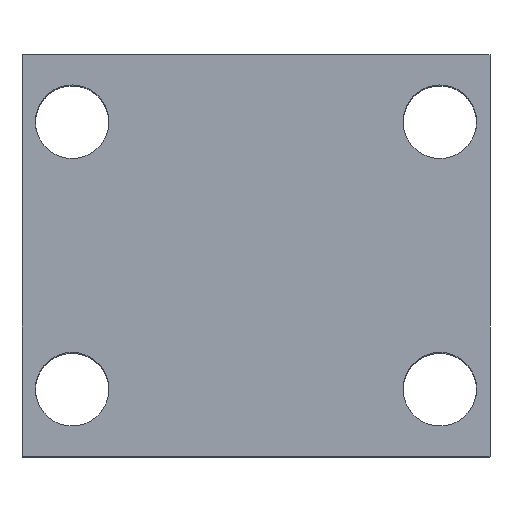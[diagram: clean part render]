
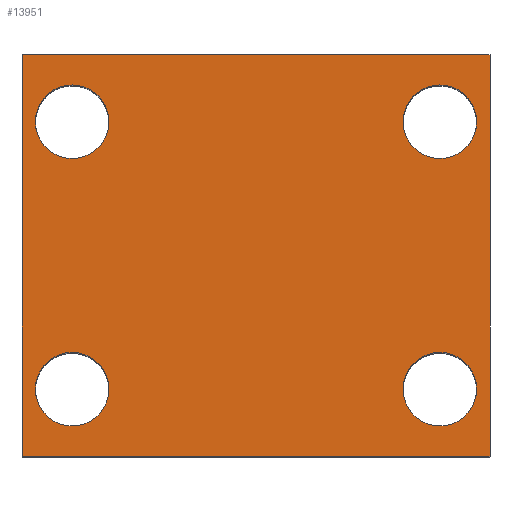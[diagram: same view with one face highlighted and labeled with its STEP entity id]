
A CAD part, top view. The second image highlights one B-rep face of the part: STEP entity #13951.
In plain terms, the highlighted planar face has unit normal (0, 0, 1).
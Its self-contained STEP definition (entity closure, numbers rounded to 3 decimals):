
#313 = ORIENTED_EDGE ( 'NONE', *, *, #8789, .T. ) ;
#527 = VERTEX_POINT ( 'NONE', #11093 ) ;
#805 = CARTESIAN_POINT ( 'NONE',  ( -44., 20., 90. ) ) ;
#972 = VERTEX_POINT ( 'NONE', #16386 ) ;
#973 = CARTESIAN_POINT ( 'NONE',  ( -70., 120., 90. ) ) ;
#1022 = VERTEX_POINT ( 'NONE', #4160 ) ;
#1179 = VERTEX_POINT ( 'NONE', #3356 ) ;
#1508 = EDGE_CURVE ( 'NONE', #14129, #972, #13587, .T. ) ;
#1691 = CARTESIAN_POINT ( 'NONE',  ( -70., 0., 90. ) ) ;
#1798 = CARTESIAN_POINT ( 'NONE',  ( 66., 20., 90. ) ) ;
#1804 = EDGE_CURVE ( 'NONE', #13952, #15826, #11424, .T. ) ;
#1813 = VECTOR ( 'NONE', #10751, 1000. ) ;
#2024 = EDGE_LOOP ( 'NONE', ( #6014, #12218 ) ) ;
#2423 = DIRECTION ( 'NONE',  ( 0., -1., 0. ) ) ;
#3356 = CARTESIAN_POINT ( 'NONE',  ( 70., 0., 90. ) ) ;
#3361 = CARTESIAN_POINT ( 'NONE',  ( -70., 120., 90. ) ) ;
#3438 = CIRCLE ( 'NONE', #8086, 11. ) ;
#3543 = CARTESIAN_POINT ( 'NONE',  ( 55., 20., 90. ) ) ;
#3546 = DIRECTION ( 'NONE',  ( 0., 0., -1. ) ) ;
#3564 = FACE_BOUND ( 'NONE', #9990, .T. ) ;
#3681 = ORIENTED_EDGE ( 'NONE', *, *, #1508, .F. ) ;
#3772 = DIRECTION ( 'NONE',  ( 0., 0., -1. ) ) ;
#3790 = ORIENTED_EDGE ( 'NONE', *, *, #17680, .T. ) ;
#4160 = CARTESIAN_POINT ( 'NONE',  ( -66., 20., 90. ) ) ;
#4207 = CIRCLE ( 'NONE', #6958, 11. ) ;
#4918 = DIRECTION ( 'NONE',  ( -1., 0., 0. ) ) ;
#5211 = CARTESIAN_POINT ( 'NONE',  ( 70., 120., 90. ) ) ;
#5252 = CARTESIAN_POINT ( 'NONE',  ( 55., 100., 90. ) ) ;
#5296 = LINE ( 'NONE', #973, #12119 ) ;
#5618 = CARTESIAN_POINT ( 'NONE',  ( 55., 20., 90. ) ) ;
#5704 = ORIENTED_EDGE ( 'NONE', *, *, #14435, .T. ) ;
#5851 = CARTESIAN_POINT ( 'NONE',  ( 66., 100., 90. ) ) ;
#5877 = CIRCLE ( 'NONE', #14012, 11. ) ;
#6014 = ORIENTED_EDGE ( 'NONE', *, *, #12833, .T. ) ;
#6062 = CARTESIAN_POINT ( 'NONE',  ( -55., 20., 90. ) ) ;
#6655 = DIRECTION ( 'NONE',  ( -1., 0., 0. ) ) ;
#6817 = FACE_OUTER_BOUND ( 'NONE', #11448, .T. ) ;
#6958 = AXIS2_PLACEMENT_3D ( 'NONE', #11716, #3546, #13089 ) ;
#7007 = DIRECTION ( 'NONE',  ( -1., 0., 0. ) ) ;
#7102 = EDGE_CURVE ( 'NONE', #7640, #527, #3438, .T. ) ;
#7104 = ORIENTED_EDGE ( 'NONE', *, *, #1804, .T. ) ;
#7232 = DIRECTION ( 'NONE',  ( 0., 0., -1. ) ) ;
#7233 = FACE_BOUND ( 'NONE', #2024, .T. ) ;
#7421 = DIRECTION ( 'NONE',  ( 0., 0., -1. ) ) ;
#7433 = DIRECTION ( 'NONE',  ( -1., 0., 0. ) ) ;
#7484 = AXIS2_PLACEMENT_3D ( 'NONE', #16924, #15723, #14561 ) ;
#7640 = VERTEX_POINT ( 'NONE', #15884 ) ;
#7861 = AXIS2_PLACEMENT_3D ( 'NONE', #5252, #14817, #6655 ) ;
#8086 = AXIS2_PLACEMENT_3D ( 'NONE', #11952, #3772, #13317 ) ;
#8789 = EDGE_CURVE ( 'NONE', #15457, #1179, #16113, .T. ) ;
#8919 = AXIS2_PLACEMENT_3D ( 'NONE', #3543, #13088, #4918 ) ;
#8933 = ORIENTED_EDGE ( 'NONE', *, *, #13736, .T. ) ;
#9272 = EDGE_CURVE ( 'NONE', #14442, #15816, #11723, .T. ) ;
#9418 = CARTESIAN_POINT ( 'NONE',  ( -70., 0., 90. ) ) ;
#9596 = ORIENTED_EDGE ( 'NONE', *, *, #7102, .T. ) ;
#9816 = VECTOR ( 'NONE', #12006, 1000. ) ;
#9898 = VERTEX_POINT ( 'NONE', #805 ) ;
#9902 = EDGE_CURVE ( 'NONE', #972, #1179, #13429, .T. ) ;
#9962 = VECTOR ( 'NONE', #17784, 1000. ) ;
#9990 = EDGE_LOOP ( 'NONE', ( #14628, #9596 ) ) ;
#10330 = EDGE_CURVE ( 'NONE', #15826, #13952, #10861, .T. ) ;
#10393 = FACE_BOUND ( 'NONE', #18131, .T. ) ;
#10751 = DIRECTION ( 'NONE',  ( 1., 0., 0. ) ) ;
#10861 = CIRCLE ( 'NONE', #7861, 11. ) ;
#11093 = CARTESIAN_POINT ( 'NONE',  ( -66., 100., 90. ) ) ;
#11424 = CIRCLE ( 'NONE', #7484, 11. ) ;
#11448 = EDGE_LOOP ( 'NONE', ( #313, #13604, #3681, #8933 ) ) ;
#11716 = CARTESIAN_POINT ( 'NONE',  ( -55., 100., 90. ) ) ;
#11723 = CIRCLE ( 'NONE', #13073, 11. ) ;
#11939 = EDGE_LOOP ( 'NONE', ( #5704, #3790 ) ) ;
#11952 = CARTESIAN_POINT ( 'NONE',  ( -55., 100., 90. ) ) ;
#12006 = DIRECTION ( 'NONE',  ( 0., -1., 0. ) ) ;
#12119 = VECTOR ( 'NONE', #2423, 1000. ) ;
#12218 = ORIENTED_EDGE ( 'NONE', *, *, #9272, .T. ) ;
#12544 = CIRCLE ( 'NONE', #8919, 11. ) ;
#12610 = PLANE ( 'NONE',  #17499 ) ;
#12765 = ORIENTED_EDGE ( 'NONE', *, *, #10330, .T. ) ;
#12833 = EDGE_CURVE ( 'NONE', #15816, #14442, #12544, .T. ) ;
#13073 = AXIS2_PLACEMENT_3D ( 'NONE', #5618, #15197, #7007 ) ;
#13088 = DIRECTION ( 'NONE',  ( 0., 0., -1. ) ) ;
#13089 = DIRECTION ( 'NONE',  ( -1., 0., 0. ) ) ;
#13317 = DIRECTION ( 'NONE',  ( -1., 0., 0. ) ) ;
#13429 = LINE ( 'NONE', #5211, #9816 ) ;
#13587 = LINE ( 'NONE', #18048, #9962 ) ;
#13604 = ORIENTED_EDGE ( 'NONE', *, *, #9902, .F. ) ;
#13736 = EDGE_CURVE ( 'NONE', #14129, #15457, #5296, .T. ) ;
#13951 = ADVANCED_FACE ( 'NONE', ( #3564, #14021, #7233, #10393, #6817 ), #12610, .F. ) ;
#13952 = VERTEX_POINT ( 'NONE', #5851 ) ;
#14012 = AXIS2_PLACEMENT_3D ( 'NONE', #15640, #7421, #17095 ) ;
#14021 = FACE_BOUND ( 'NONE', #11939, .T. ) ;
#14129 = VERTEX_POINT ( 'NONE', #3361 ) ;
#14200 = CARTESIAN_POINT ( 'NONE',  ( 44., 100., 90. ) ) ;
#14203 = EDGE_CURVE ( 'NONE', #527, #7640, #4207, .T. ) ;
#14435 = EDGE_CURVE ( 'NONE', #1022, #9898, #14673, .T. ) ;
#14442 = VERTEX_POINT ( 'NONE', #1798 ) ;
#14561 = DIRECTION ( 'NONE',  ( -1., 0., 0. ) ) ;
#14628 = ORIENTED_EDGE ( 'NONE', *, *, #14203, .T. ) ;
#14673 = CIRCLE ( 'NONE', #18125, 11. ) ;
#14817 = DIRECTION ( 'NONE',  ( 0., 0., -1. ) ) ;
#15197 = DIRECTION ( 'NONE',  ( 0., 0., -1. ) ) ;
#15437 = CARTESIAN_POINT ( 'NONE',  ( -70., 120., 90. ) ) ;
#15457 = VERTEX_POINT ( 'NONE', #1691 ) ;
#15640 = CARTESIAN_POINT ( 'NONE',  ( -55., 20., 90. ) ) ;
#15658 = DIRECTION ( 'NONE',  ( 0., 0., -1. ) ) ;
#15723 = DIRECTION ( 'NONE',  ( 0., 0., -1. ) ) ;
#15816 = VERTEX_POINT ( 'NONE', #17112 ) ;
#15826 = VERTEX_POINT ( 'NONE', #14200 ) ;
#15884 = CARTESIAN_POINT ( 'NONE',  ( -44., 100., 90. ) ) ;
#16113 = LINE ( 'NONE', #9418, #1813 ) ;
#16386 = CARTESIAN_POINT ( 'NONE',  ( 70., 120., 90. ) ) ;
#16890 = DIRECTION ( 'NONE',  ( -1., 0., 0. ) ) ;
#16924 = CARTESIAN_POINT ( 'NONE',  ( 55., 100., 90. ) ) ;
#17095 = DIRECTION ( 'NONE',  ( -1., 0., 0. ) ) ;
#17112 = CARTESIAN_POINT ( 'NONE',  ( 44., 20., 90. ) ) ;
#17499 = AXIS2_PLACEMENT_3D ( 'NONE', #15437, #7232, #16890 ) ;
#17680 = EDGE_CURVE ( 'NONE', #9898, #1022, #5877, .T. ) ;
#17784 = DIRECTION ( 'NONE',  ( 1., 0., 0. ) ) ;
#18048 = CARTESIAN_POINT ( 'NONE',  ( -70., 120., 90. ) ) ;
#18125 = AXIS2_PLACEMENT_3D ( 'NONE', #6062, #15658, #7433 ) ;
#18131 = EDGE_LOOP ( 'NONE', ( #12765, #7104 ) ) ;
